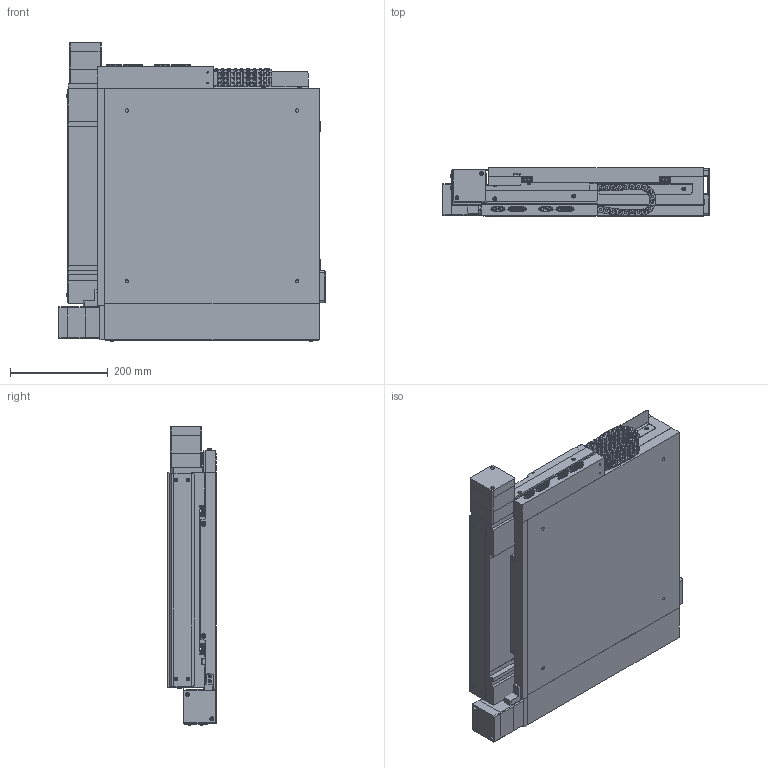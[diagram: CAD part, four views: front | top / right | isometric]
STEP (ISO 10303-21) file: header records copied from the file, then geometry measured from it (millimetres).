
FILE_DESCRIPTION (( 'STEP AP214' ), '1' );
FILE_NAME ('GXY-320-Dual Feedback-EXPORT.STEP', '2025-07-08T14:04:34', ( 'lab' ), ( '' ), 'SwSTEP 2.0', 'SolidWorks 2018', '' );
FILE_SCHEMA (( 'AUTOMOTIVE_DESIGN' ));
Length unit declared in the file: millimetre
Products named in the file (16): E045-3_9-018-0; E045_3_9_018_Moving End_No Strain Relief; 25621-EXPORT; E045_3_9_018_Fixed End_No Strain Relief; DB9-M-EXPORT; 33468; GXY-CPD-EXPORT-Configurable_Dual Loop 320; 91294A128_91294A128; GXY-TOP-EXPORT-Configurable_320; SDG400S-EXPORT; GXY-320-Dual Feedback-EXPORT; DB26HD-M-EXPORT; 91290A323_91290A323; 25616-EXPORT; GXY-BTM-EXPORT-Configurable_Dual Loop 320; 25615-EXPORT
Assembly tree (53 placements, depth 2):
  GXY-320-Dual Feedback-EXPORT
    GXY-BTM-EXPORT-Configurable_Dual Loop 320
    GXY-CPD-EXPORT-Configurable_Dual Loop 320
    GXY-TOP-EXPORT-Configurable_320
    25615-EXPORT  x2
    91290A323_91290A323  x6
    33468
    DB26HD-M-EXPORT  x2
    DB9-M-EXPORT  x2
    SDG400S-EXPORT  x8
    25616-EXPORT  x2
    25621-EXPORT  x2
    E045_3_9_018_Fixed End_No Strain Relief
    E045_3_9_018_Moving End_No Strain Relief
    91294A128_91294A128  x4
    E045-3_9-018-0  x19
Bounding box: 546 x 99 x 612.14 mm (x, y, z)
Volume: 24472680.5 mm3; surface area: 2475856.6 mm2
Topology: 170 solids, 170 shells, 6299 faces, 15652 edges, 9846 vertices
Faces by surface type: plane 3820, cylinder 1721, cone 398, bspline 340, torus 20
Entity records: 92074 total; most frequent: CARTESIAN_POINT 20112, DIRECTION 13661, ORIENTED_EDGE 13162, EDGE_CURVE 6581, AXIS2_PLACEMENT_3D 4603, VECTOR 4455, LINE 4455, VERTEX_POINT 4066
